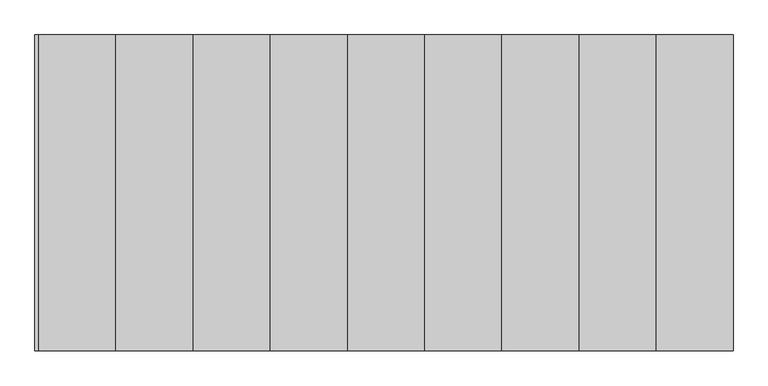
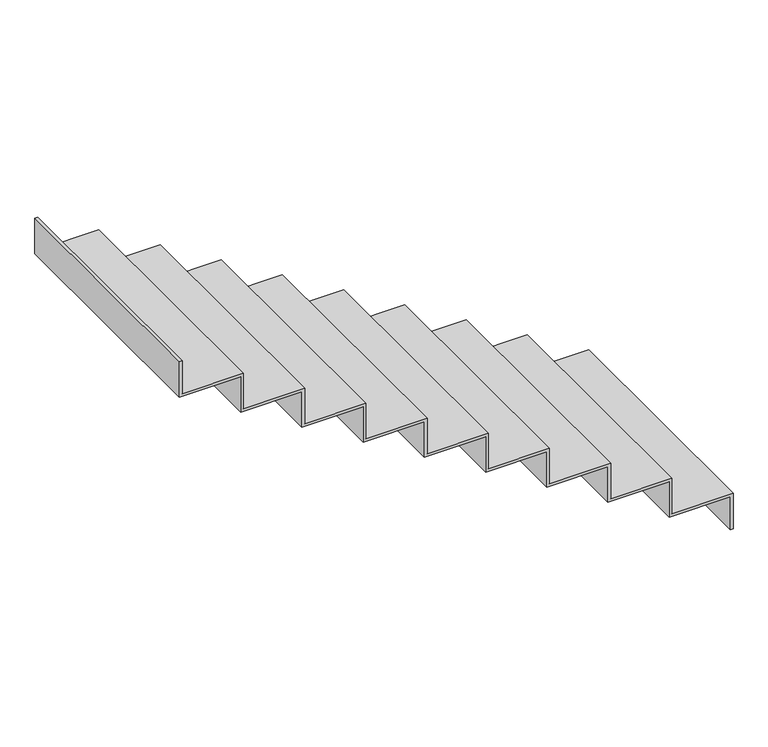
"""IFC4 building model written with IfcOpenShell, lengths in millimetres: stair flight geometry, HUELLA 50MM-CONTRAHUELLA 13MM."""

from ifc_helpers import new_model, si_unit, frame, origin, place, context, project, spatial, polyline, outline, extrude, source, transform, mapped, element, save


def stair_flight_30f7553b(model_context):
    return source(origin(), model_context, "Body", "SweptSolid", [
        extrude(outline(polyline([(161.7105263, 7166.2173693), (0.0, 7166.2173693), (0.0, 7178.7173693), (174.2105263, 7178.7173693), (174.2105263, 6892.7173693), (348.4210526, 6892.7173693), (348.4210526, 6606.7173693), (522.6315789, 6606.7173693), (522.6315789, 6320.7173693), (696.8421053, 6320.7173693), (696.8421053, 6034.7173693), (871.0526316, 6034.7173693), (871.0526316, 5748.7173693), (1045.2631579, 5748.7173693), (1045.2631579, 5462.7173693), (1219.4736842, 5462.7173693), (1219.4736842, 5176.7173693), (1393.6842105, 5176.7173693), (1393.6842105, 4890.7173693), (1567.8947368, 4890.7173693), (1567.8947368, 4604.7173693), (1729.6052632, 4604.7173693), (1729.6052632, 4592.2173693), (1555.3947368, 4592.2173693), (1555.3947368, 4878.2173693), (1381.1842105, 4878.2173693), (1381.1842105, 5164.2173693), (1206.9736842, 5164.2173693), (1206.9736842, 5450.2173693), (1032.7631579, 5450.2173693), (1032.7631579, 5736.2173693), (858.5526316, 5736.2173693), (858.5526316, 6022.2173693), (684.3421053, 6022.2173693), (684.3421053, 6308.2173693), (510.1315789, 6308.2173693), (510.1315789, 6594.2173693), (335.9210526, 6594.2173693), (335.9210526, 6880.2173693), (161.7105263, 6880.2173693), (161.7105263, 7166.2173693)])), frame((0.0, 7445.2304035, 0.0), z_axis=(0.0, 1.0, 0.0), x_axis=(0.0, 0.0, 1.0)), (0.0, 0.0, 1.0), 1170.0),
    ])


if __name__ == "__main__":
    model = new_model("IFC4")
    model_context = context("Model", 3, world=origin())
    ifc_project = project(units=[si_unit("LENGTHUNIT", "METRE", prefix="MILLI")], contexts=[model_context])
    site = spatial("IfcSite", under=ifc_project)
    building = spatial("IfcBuilding", under=site)
    placement = place(None, origin())
    stair_flight_shape = stair_flight_30f7553b(model_context)
    element("IfcStairFlight", 1, ObjectType="HUELLA 50MM-CONTRAHUELLA 13MM", at=placement, inside=building, context=model_context, shape_type="MappedRepresentation", body=[
        mapped(stair_flight_shape, transform((0.0, 0.0, 0.0), x_axis=(1.0, 0.0, 0.0), y_axis=(0.0, 1.0, 0.0), z_axis=(0.0, 0.0, 1.0))),
    ])
    save(model, "model.ifc")
